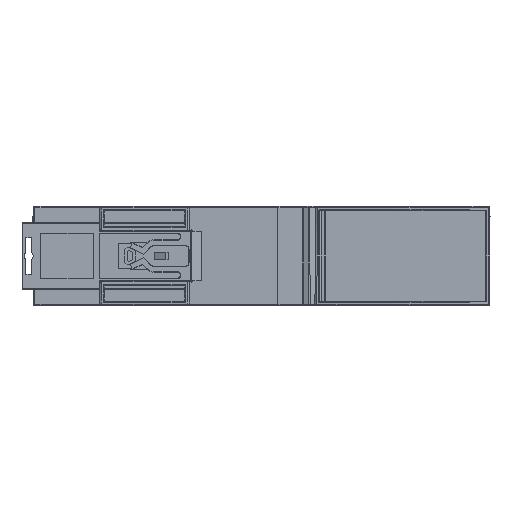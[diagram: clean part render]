
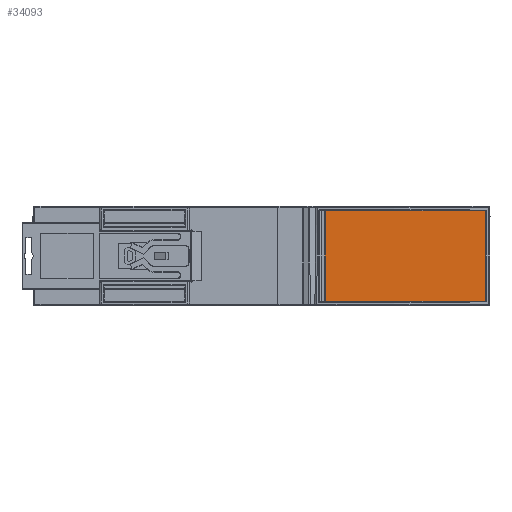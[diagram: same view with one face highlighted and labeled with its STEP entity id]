
A CAD part, left-side view. The second image highlights one B-rep face of the part: STEP entity #34093.
In plain terms, the highlighted planar face has unit normal (-1, 0, 0).
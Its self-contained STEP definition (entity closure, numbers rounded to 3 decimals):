
#7184=DIRECTION('',(0.,1.,0.));
#7185=VECTOR('',#7184,43.203);
#7186=CARTESIAN_POINT('',(-48.25,139.498,1.298));
#7187=LINE('',#7186,#7185);
#7479=DIRECTION('',(0.,-1.,0.));
#7480=VECTOR('',#7479,43.203);
#7481=CARTESIAN_POINT('',(-48.25,182.701,25.701));
#7482=LINE('',#7481,#7480);
#7517=DIRECTION('',(0.,0.,-1.));
#7518=VECTOR('',#7517,24.403);
#7519=CARTESIAN_POINT('',(-48.25,139.498,25.702));
#7520=LINE('',#7519,#7518);
#7524=DIRECTION('',(0.,0.,1.));
#7525=VECTOR('',#7524,24.402);
#7526=CARTESIAN_POINT('',(-48.25,182.701,1.299));
#7527=LINE('',#7526,#7525);
#27207=CARTESIAN_POINT('',(-48.25,182.702,
25.701));
#27208=VERTEX_POINT('',#27207);
#27209=CARTESIAN_POINT('',(-48.25,139.498,
25.702));
#27210=VERTEX_POINT('',#27209);
#27211=CARTESIAN_POINT('',(-48.25,139.498,
1.298));
#27212=VERTEX_POINT('',#27211);
#27214=CARTESIAN_POINT('',(-48.25,182.702,
1.299));
#27216=VERTEX_POINT('',#27214);
#34081=CARTESIAN_POINT('',(-48.25,200.,0.));
#34082=DIRECTION('',(-1.,0.,0.));
#34083=DIRECTION('',(0.,0.,1.));
#34084=AXIS2_PLACEMENT_3D('',#34081,#34082,#34083);
#34085=PLANE('',#34084);
#34086=ORIENTED_EDGE('',*,*,#34076,.T.);
#34087=ORIENTED_EDGE('',*,*,#33741,.T.);
#34089=ORIENTED_EDGE('',*,*,#34088,.T.);
#34090=ORIENTED_EDGE('',*,*,#34051,.T.);
#34091=EDGE_LOOP('',(#34086,#34087,#34089,#34090));
#34092=FACE_OUTER_BOUND('',#34091,.F.);
#33741=EDGE_CURVE('',#27212,#27216,#7187,.T.);
#34051=EDGE_CURVE('',#27208,#27210,#7482,.T.);
#34076=EDGE_CURVE('',#27210,#27212,#7520,.T.);
#34088=EDGE_CURVE('',#27216,#27208,#7527,.T.);
#34093=ADVANCED_FACE('',(#34092),#34085,.T.);
